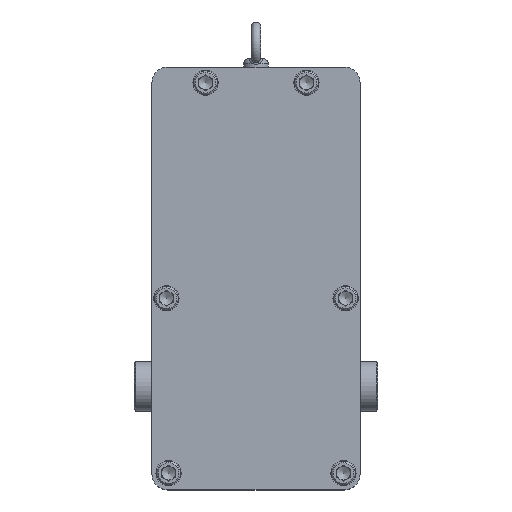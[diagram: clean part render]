
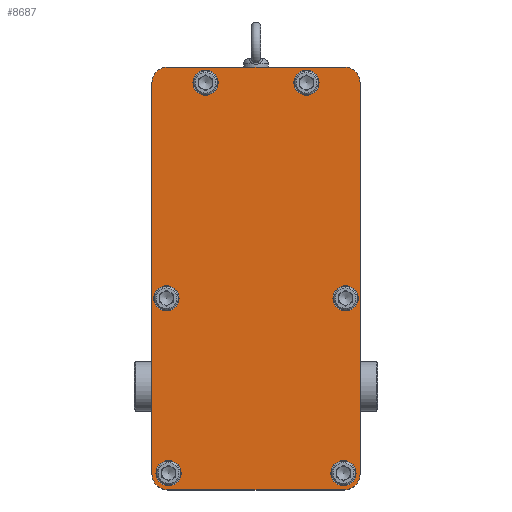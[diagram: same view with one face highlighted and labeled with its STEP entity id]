
A CAD part, top view. The second image highlights one B-rep face of the part: STEP entity #8687.
In plain terms, the highlighted planar face has unit normal (0, 0, 1).
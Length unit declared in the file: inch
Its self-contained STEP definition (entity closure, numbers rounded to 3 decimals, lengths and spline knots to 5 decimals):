
#232 = CARTESIAN_POINT ( 'NONE',  ( -3.5, -4.125, 12.0218 ) ) ;
#942 = CARTESIAN_POINT ( 'NONE',  ( 3.5, 12., 12.0218 ) ) ;
#1269 = DIRECTION ( 'NONE',  ( 0., 0., 1. ) ) ;
#1414 = EDGE_LOOP ( 'NONE', ( #36139 ) ) ;
#1480 = EDGE_CURVE ( 'NONE', #39138, #39138, #23841, .T. ) ;
#1885 = EDGE_CURVE ( 'NONE', #34125, #34125, #6755, .T. ) ;
#2021 = CARTESIAN_POINT ( 'NONE',  ( 4.05, 3.46482, 12.0218 ) ) ;
#2445 = CARTESIAN_POINT ( 'NONE',  ( -3.46482, -3.46482, 12.0218 ) ) ;
#2972 = CIRCLE ( 'NONE', #29445, 0.5 ) ;
#3369 = CIRCLE ( 'NONE', #44043, 0.625 ) ;
#3695 = CARTESIAN_POINT ( 'NONE',  ( -4.125, 12.625, 12.0218 ) ) ;
#3871 = CARTESIAN_POINT ( 'NONE',  ( 3.96482, -3.46482, 12.0218 ) ) ;
#4280 = CIRCLE ( 'NONE', #11870, 0.5 ) ;
#4438 = EDGE_LOOP ( 'NONE', ( #22107 ) ) ;
#4475 = DIRECTION ( 'NONE',  ( 1., 0., 0. ) ) ;
#4566 = LINE ( 'NONE', #35658, #5087 ) ;
#5087 = VECTOR ( 'NONE', #17327, 39.37008 ) ;
#5267 = VERTEX_POINT ( 'NONE', #56626 ) ;
#5396 = AXIS2_PLACEMENT_3D ( 'NONE', #29437, #23846, #5760 ) ;
#5760 = DIRECTION ( 'NONE',  ( -1., 0., 0. ) ) ;
#6283 = EDGE_LOOP ( 'NONE', ( #51484 ) ) ;
#6755 = CIRCLE ( 'NONE', #54003, 0.5 ) ;
#8067 = CARTESIAN_POINT ( 'NONE',  ( -3.5, 12.625, 12.0218 ) ) ;
#8687 = ADVANCED_FACE ( 'NONE', ( #54635, #54926, #13770, #27372, #23826, #19085, #14051 ), #31811, .F. ) ;
#8877 = VERTEX_POINT ( 'NONE', #8067 ) ;
#9904 = EDGE_LOOP ( 'NONE', ( #24937 ) ) ;
#11454 = CARTESIAN_POINT ( 'NONE',  ( -3.5, -3.5, 12.0218 ) ) ;
#11870 = AXIS2_PLACEMENT_3D ( 'NONE', #47733, #1269, #37366 ) ;
#12197 = DIRECTION ( 'NONE',  ( 1., 0., 0. ) ) ;
#12795 = DIRECTION ( 'NONE',  ( 0., 0., 1. ) ) ;
#13144 = AXIS2_PLACEMENT_3D ( 'NONE', #39040, #57688, #57137 ) ;
#13597 = VERTEX_POINT ( 'NONE', #31634 ) ;
#13770 = FACE_BOUND ( 'NONE', #13840, .T. ) ;
#13840 = EDGE_LOOP ( 'NONE', ( #16744 ) ) ;
#13889 = ORIENTED_EDGE ( 'NONE', *, *, #35964, .T. ) ;
#14051 = FACE_OUTER_BOUND ( 'NONE', #50697, .T. ) ;
#14629 = DIRECTION ( 'NONE',  ( 0., 0., -1. ) ) ;
#14999 = DIRECTION ( 'NONE',  ( 0., 0., 1. ) ) ;
#15300 = DIRECTION ( 'NONE',  ( -1., 0., 0. ) ) ;
#16368 = CARTESIAN_POINT ( 'NONE',  ( 2.5, 12., 12.0218 ) ) ;
#16744 = ORIENTED_EDGE ( 'NONE', *, *, #1480, .F. ) ;
#17327 = DIRECTION ( 'NONE',  ( 1., 0., 0. ) ) ;
#17335 = EDGE_CURVE ( 'NONE', #18627, #37998, #37433, .T. ) ;
#18115 = CARTESIAN_POINT ( 'NONE',  ( 3.5, 12.625, 12.0218 ) ) ;
#18250 = LINE ( 'NONE', #41596, #21355 ) ;
#18627 = VERTEX_POINT ( 'NONE', #43737 ) ;
#18807 = EDGE_CURVE ( 'NONE', #18627, #23366, #18250, .T. ) ;
#19085 = FACE_BOUND ( 'NONE', #6283, .T. ) ;
#19206 = ORIENTED_EDGE ( 'NONE', *, *, #17335, .T. ) ;
#19459 = CIRCLE ( 'NONE', #34585, 0.5 ) ;
#19594 = ORIENTED_EDGE ( 'NONE', *, *, #36341, .F. ) ;
#19979 = EDGE_CURVE ( 'NONE', #52134, #52134, #50799, .T. ) ;
#20063 = AXIS2_PLACEMENT_3D ( 'NONE', #35284, #12795, #4475 ) ;
#20411 = AXIS2_PLACEMENT_3D ( 'NONE', #32089, #14629, #41558 ) ;
#21355 = VECTOR ( 'NONE', #45166, 39.37008 ) ;
#21690 = CIRCLE ( 'NONE', #13144, 0.625 ) ;
#22107 = ORIENTED_EDGE ( 'NONE', *, *, #19979, .F. ) ;
#22446 = VERTEX_POINT ( 'NONE', #47248 ) ;
#23239 = ORIENTED_EDGE ( 'NONE', *, *, #28562, .F. ) ;
#23366 = VERTEX_POINT ( 'NONE', #53524 ) ;
#23826 = FACE_BOUND ( 'NONE', #9904, .T. ) ;
#23841 = CIRCLE ( 'NONE', #20063, 0.5 ) ;
#23846 = DIRECTION ( 'NONE',  ( 0., 0., 1. ) ) ;
#24231 = LINE ( 'NONE', #46116, #25925 ) ;
#24911 = EDGE_CURVE ( 'NONE', #5267, #28375, #3369, .T. ) ;
#24937 = ORIENTED_EDGE ( 'NONE', *, *, #1885, .F. ) ;
#25300 = CIRCLE ( 'NONE', #5396, 0.625 ) ;
#25394 = VERTEX_POINT ( 'NONE', #46620 ) ;
#25825 = DIRECTION ( 'NONE',  ( 0., 0., 1. ) ) ;
#25925 = VECTOR ( 'NONE', #42557, 39.37008 ) ;
#26345 = DIRECTION ( 'NONE',  ( 1., 0., 0. ) ) ;
#26361 = EDGE_CURVE ( 'NONE', #8877, #22446, #25300, .T. ) ;
#27291 = ORIENTED_EDGE ( 'NONE', *, *, #24911, .T. ) ;
#27372 = FACE_BOUND ( 'NONE', #46804, .T. ) ;
#27387 = VECTOR ( 'NONE', #38961, 39.37008 ) ;
#27714 = DIRECTION ( 'NONE',  ( 1., 0., 0. ) ) ;
#27960 = AXIS2_PLACEMENT_3D ( 'NONE', #942, #55147, #50683 ) ;
#28375 = VERTEX_POINT ( 'NONE', #232 ) ;
#28562 = EDGE_CURVE ( 'NONE', #13597, #13597, #2972, .T. ) ;
#29226 = CARTESIAN_POINT ( 'NONE',  ( -3.55, 3.46482, 12.0218 ) ) ;
#29437 = CARTESIAN_POINT ( 'NONE',  ( -3.5, 12., 12.0218 ) ) ;
#29445 = AXIS2_PLACEMENT_3D ( 'NONE', #29226, #47004, #33075 ) ;
#30858 = ORIENTED_EDGE ( 'NONE', *, *, #18807, .F. ) ;
#31634 = CARTESIAN_POINT ( 'NONE',  ( -3.05, 3.46482, 12.0218 ) ) ;
#31811 = PLANE ( 'NONE',  #20411 ) ;
#32089 = CARTESIAN_POINT ( 'NONE',  ( 0., 0., 12.0218 ) ) ;
#32139 = CARTESIAN_POINT ( 'NONE',  ( -2., 12., 12.0218 ) ) ;
#32793 = ORIENTED_EDGE ( 'NONE', *, *, #26361, .T. ) ;
#33075 = DIRECTION ( 'NONE',  ( 1., 0., 0. ) ) ;
#34125 = VERTEX_POINT ( 'NONE', #3871 ) ;
#34585 = AXIS2_PLACEMENT_3D ( 'NONE', #2445, #25825, #12197 ) ;
#35284 = CARTESIAN_POINT ( 'NONE',  ( 2., 12., 12.0218 ) ) ;
#35658 = CARTESIAN_POINT ( 'NONE',  ( 4.125, 12.625, 12.0218 ) ) ;
#35964 = EDGE_CURVE ( 'NONE', #25394, #23366, #21690, .T. ) ;
#36139 = ORIENTED_EDGE ( 'NONE', *, *, #51328, .F. ) ;
#36341 = EDGE_CURVE ( 'NONE', #5267, #22446, #52331, .T. ) ;
#37366 = DIRECTION ( 'NONE',  ( 1., 0., 0. ) ) ;
#37433 = CIRCLE ( 'NONE', #27960, 0.625 ) ;
#37998 = VERTEX_POINT ( 'NONE', #18115 ) ;
#38961 = DIRECTION ( 'NONE',  ( 0., 1., 0. ) ) ;
#39040 = CARTESIAN_POINT ( 'NONE',  ( 3.5, -3.5, 12.0218 ) ) ;
#39138 = VERTEX_POINT ( 'NONE', #16368 ) ;
#40351 = EDGE_CURVE ( 'NONE', #8877, #37998, #4566, .T. ) ;
#41558 = DIRECTION ( 'NONE',  ( -1., 0., 0. ) ) ;
#41596 = CARTESIAN_POINT ( 'NONE',  ( 4.125, 12.625, 12.0218 ) ) ;
#41762 = EDGE_CURVE ( 'NONE', #56233, #56233, #4280, .T. ) ;
#41912 = DIRECTION ( 'NONE',  ( 0., 0., 1. ) ) ;
#42557 = DIRECTION ( 'NONE',  ( -1., 0., 0. ) ) ;
#43737 = CARTESIAN_POINT ( 'NONE',  ( 4.125, 12., 12.0218 ) ) ;
#44043 = AXIS2_PLACEMENT_3D ( 'NONE', #11454, #14999, #15300 ) ;
#45054 = ORIENTED_EDGE ( 'NONE', *, *, #40351, .F. ) ;
#45166 = DIRECTION ( 'NONE',  ( 0., -1., 0. ) ) ;
#46116 = CARTESIAN_POINT ( 'NONE',  ( 4.125, -4.125, 12.0218 ) ) ;
#46620 = CARTESIAN_POINT ( 'NONE',  ( 3.5, -4.125, 12.0218 ) ) ;
#46804 = EDGE_LOOP ( 'NONE', ( #23239 ) ) ;
#47004 = DIRECTION ( 'NONE',  ( 0., 0., 1. ) ) ;
#47248 = CARTESIAN_POINT ( 'NONE',  ( -4.125, 12., 12.0218 ) ) ;
#47733 = CARTESIAN_POINT ( 'NONE',  ( 3.55, 3.46482, 12.0218 ) ) ;
#48729 = CARTESIAN_POINT ( 'NONE',  ( -2.96482, -3.46482, 12.0218 ) ) ;
#50382 = EDGE_CURVE ( 'NONE', #25394, #28375, #24231, .T. ) ;
#50683 = DIRECTION ( 'NONE',  ( -1., 0., 0. ) ) ;
#50697 = EDGE_LOOP ( 'NONE', ( #19594, #27291, #51934, #13889, #30858, #19206, #45054, #32793 ) ) ;
#50799 = CIRCLE ( 'NONE', #53625, 0.5 ) ;
#51328 = EDGE_CURVE ( 'NONE', #54061, #54061, #19459, .T. ) ;
#51484 = ORIENTED_EDGE ( 'NONE', *, *, #41762, .F. ) ;
#51934 = ORIENTED_EDGE ( 'NONE', *, *, #50382, .F. ) ;
#52134 = VERTEX_POINT ( 'NONE', #52710 ) ;
#52331 = LINE ( 'NONE', #3695, #27387 ) ;
#52710 = CARTESIAN_POINT ( 'NONE',  ( -1.5, 12., 12.0218 ) ) ;
#53524 = CARTESIAN_POINT ( 'NONE',  ( 4.125, -3.5, 12.0218 ) ) ;
#53625 = AXIS2_PLACEMENT_3D ( 'NONE', #32139, #41912, #27714 ) ;
#53879 = CARTESIAN_POINT ( 'NONE',  ( 3.46482, -3.46482, 12.0218 ) ) ;
#54003 = AXIS2_PLACEMENT_3D ( 'NONE', #53879, #58630, #26345 ) ;
#54061 = VERTEX_POINT ( 'NONE', #48729 ) ;
#54635 = FACE_BOUND ( 'NONE', #1414, .T. ) ;
#54926 = FACE_BOUND ( 'NONE', #4438, .T. ) ;
#55147 = DIRECTION ( 'NONE',  ( 0., 0., 1. ) ) ;
#56233 = VERTEX_POINT ( 'NONE', #2021 ) ;
#56626 = CARTESIAN_POINT ( 'NONE',  ( -4.125, -3.5, 12.0218 ) ) ;
#57137 = DIRECTION ( 'NONE',  ( -1., 0., 0. ) ) ;
#57688 = DIRECTION ( 'NONE',  ( 0., 0., 1. ) ) ;
#58630 = DIRECTION ( 'NONE',  ( 0., 0., 1. ) ) ;
